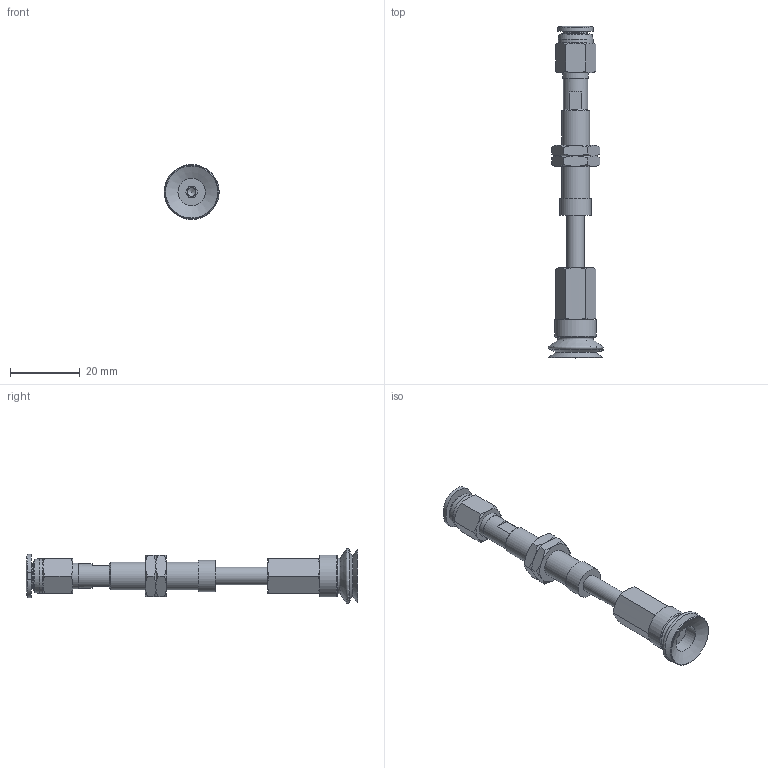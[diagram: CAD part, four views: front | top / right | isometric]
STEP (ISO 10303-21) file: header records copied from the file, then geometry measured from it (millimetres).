
FILE_DESCRIPTION(('STEP AP203'),'1');
FILE_NAME('-O.stp','2025-08-27T07:37:23',(' '),(' '),'Spatial InterOp 3D',' ',' ');
FILE_SCHEMA(('CONFIG_CONTROL_DESIGN'));
Length unit declared in the file: millimetre
Products named in the file (8): BNABPJTS-15-15-※-O; ADAPTER; NAPCTS-10-15-MBODY; Adapter-15-NAPJ; NUT-NAPJ-15-15-s; NAPJTS-15-15-FBODY; BPJG-15-※; PC-C_06-M5
Assembly tree (8 placements, depth 2):
  BNABPJTS-15-15-※-O
    ADAPTER
    NAPCTS-10-15-MBODY
    Adapter-15-NAPJ
    NUT-NAPJ-15-15-s  x2
    NAPJTS-15-15-FBODY
    BPJG-15-※
    PC-C_06-M5
Bounding box: 15.99 x 95.48 x 15.78 mm (x, y, z)
Volume: 4863.5 mm3; surface area: 6381.5 mm2
Topology: 7 solids, 10 shells, 188 faces, 392 edges, 233 vertices
Faces by surface type: cone 69, plane 67, cylinder 24, torus 11, bspline 10, sphere 4, revolution 3
Full cylindrical faces by diameter (mm): 2.5 x1, 4 x2, 4.134 x2, 4.6 x1, 5 x4, 7 x2, 7.188 x2, 7.4 x1, 7.9 x1, 8 x2, 8.2 x1, 9 x1, 10 x1, 12 x1
Entity records: 5118 total; most frequent: CARTESIAN_POINT 1607, DIRECTION 651, ORIENTED_EDGE 562, AXIS2_PLACEMENT_3D 291, EDGE_CURVE 283, EDGE_LOOP 235, VERTEX_POINT 195, FACE_OUTER_BOUND 135
